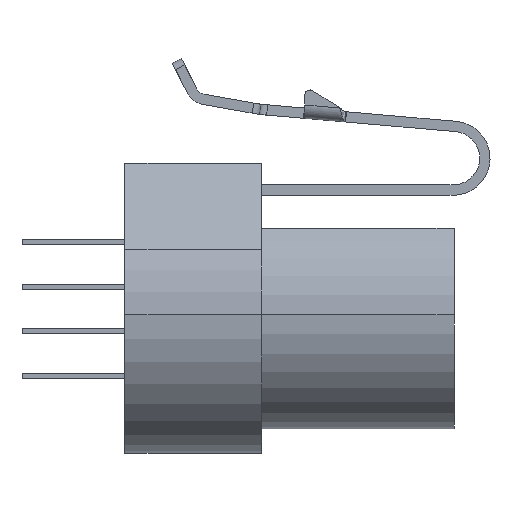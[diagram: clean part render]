
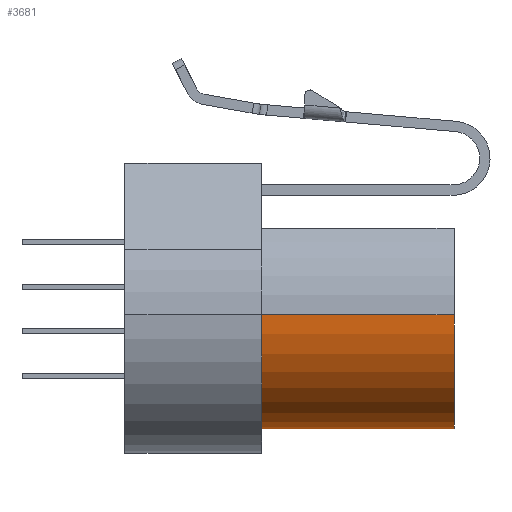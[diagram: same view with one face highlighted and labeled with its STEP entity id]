
A CAD part, left-side view. The second image highlights one B-rep face of the part: STEP entity #3681.
In plain terms, the highlighted cylindrical face has radius 2.819 mm (diameter 5.639 mm), a partial arc.
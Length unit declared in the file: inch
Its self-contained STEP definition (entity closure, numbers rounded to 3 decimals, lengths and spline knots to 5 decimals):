
#73 = CIRCLE ( 'NONE', #4168, 0.111 ) ;
#273 = CIRCLE ( 'NONE', #4176, 0.111 ) ;
#482 = DIRECTION ( 'NONE',  ( 1., 0., 0. ) ) ;
#483 = DIRECTION ( 'NONE',  ( 0., -1., 0. ) ) ;
#484 = CARTESIAN_POINT ( 'NONE',  ( 0., -0.32, -0.084 ) ) ;
#529 = DIRECTION ( 'NONE',  ( 1., 0., 0. ) ) ;
#530 = DIRECTION ( 'NONE',  ( 0., -1., 0. ) ) ;
#531 = CARTESIAN_POINT ( 'NONE',  ( 0., -0.133, -0.084 ) ) ;
#854 = CARTESIAN_POINT ( 'NONE',  ( 0.111, -0.133, -0.084 ) ) ;
#873 = DIRECTION ( 'NONE',  ( 0., -1., 0. ) ) ;
#1096 = CARTESIAN_POINT ( 'NONE',  ( 0., -0.133, -0.084 ) ) ;
#1159 = DIRECTION ( 'NONE',  ( 0., -1., 0. ) ) ;
#1203 = CARTESIAN_POINT ( 'NONE',  ( -0.111, -0.133, -0.084 ) ) ;
#1234 = DIRECTION ( 'NONE',  ( 1., 0., 0. ) ) ;
#1308 = DIRECTION ( 'NONE',  ( 0., -1., 0. ) ) ;
#2609 = ORIENTED_EDGE ( 'NONE', *, *, #4041, .F. ) ;
#2610 = ORIENTED_EDGE ( 'NONE', *, *, #4558, .F. ) ;
#2611 = ORIENTED_EDGE ( 'NONE', *, *, #4435, .T. ) ;
#2612 = ORIENTED_EDGE ( 'NONE', *, *, #4543, .T. ) ;
#2833 = EDGE_LOOP ( 'NONE', ( #2609, #2612, #2611, #2610 ) ) ;
#2990 = FACE_OUTER_BOUND ( 'NONE', #2833, .T. ) ;
#3005 = CYLINDRICAL_SURFACE ( 'NONE', #4414, 0.111 ) ;
#3559 = VERTEX_POINT ( 'NONE', #5122 ) ;
#3588 = VERTEX_POINT ( 'NONE', #5125 ) ;
#3601 = VERTEX_POINT ( 'NONE', #5131 ) ;
#3618 = VERTEX_POINT ( 'NONE', #4927 ) ;
#3681 = ADVANCED_FACE ( 'NONE', ( #2990 ), #3005, .T. ) ;
#4041 = EDGE_CURVE ( 'NONE', #3559, #3588, #5966, .T. ) ;
#4168 = AXIS2_PLACEMENT_3D ( 'NONE', #484, #483, #482 ) ;
#4176 = AXIS2_PLACEMENT_3D ( 'NONE', #531, #530, #529 ) ;
#4414 = AXIS2_PLACEMENT_3D ( 'NONE', #1096, #1159, #1234 ) ;
#4435 = EDGE_CURVE ( 'NONE', #3601, #3618, #5740, .T. ) ;
#4543 = EDGE_CURVE ( 'NONE', #3559, #3601, #273, .T. ) ;
#4558 = EDGE_CURVE ( 'NONE', #3588, #3618, #73, .T. ) ;
#4927 = CARTESIAN_POINT ( 'NONE',  ( 0.111, -0.32, -0.084 ) ) ;
#5122 = CARTESIAN_POINT ( 'NONE',  ( -0.111, -0.133, -0.084 ) ) ;
#5125 = CARTESIAN_POINT ( 'NONE',  ( -0.111, -0.32, -0.084 ) ) ;
#5131 = CARTESIAN_POINT ( 'NONE',  ( 0.111, -0.133, -0.084 ) ) ;
#5740 = LINE ( 'NONE', #854, #5769 ) ;
#5769 = VECTOR ( 'NONE', #873, 39.37008 ) ;
#5966 = LINE ( 'NONE', #1203, #6115 ) ;
#6115 = VECTOR ( 'NONE', #1308, 39.37008 ) ;
